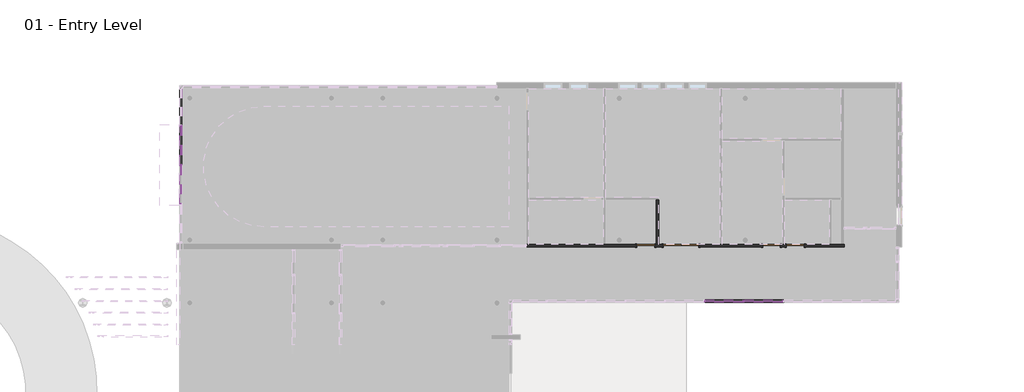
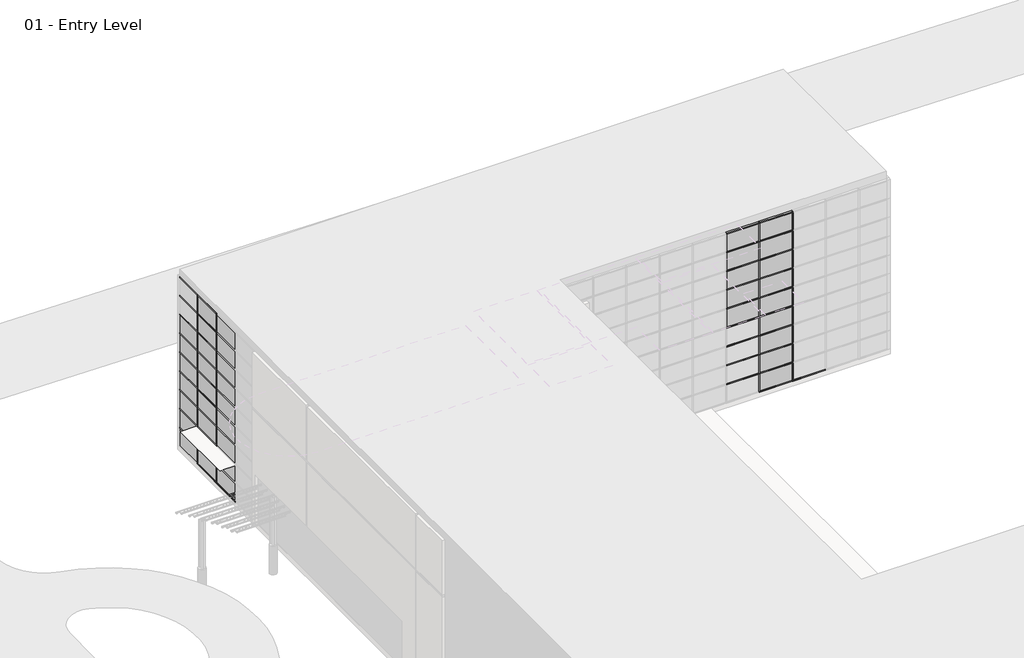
# One storey, part 27 of 34: 76 members, 39 plates, 4 doors, 2 walls.
"""IFC4 building model written with IfcOpenShell, lengths in millimetres."""

from ifc_helpers import new_model, si_unit, origin, origin_with_axes, place, context, project, spatial, polyline, outline, extrude, faceted_brep, transform, mapped, element, save
from components import door_aad9fa6e, door_a1797ceb, door_a3eb833a, member_2b49869a, member_391b434c, member_9e90ae50, member_bdc0ab2a, member_d73967ec, system_panel_glazed_1b9d6098, system_panel_glazed_70da479d, system_panel_glazed_16bdbcd7, system_panel_glazed_acb8865d, system_panel_solid_b376696c, system_panel_solid_77e8b053, system_panel_solid_f3cfc6ec

model = new_model("IFC4")

# Units and contexts
model_context = context("Model", 3, world=origin())
ifc_project = project(units=[si_unit("LENGTHUNIT", "METRE", prefix="MILLI")], contexts=[model_context])

# Site, building, storey
site = spatial("IfcSite", under=ifc_project)
building = spatial("IfcBuilding", under=site)
storey = spatial("IfcBuildingStorey", under=building, Name="01 - Entry Level", Elevation=0.0)

# Doors
placement = place(None, origin())
door_shape = door_aad9fa6e(model_context)
element("IfcDoor", 1, ObjectType="Double-Flush : 72\" x 84\"", at=placement, inside=storey, context=model_context, shape_type="MappedRepresentation", body=[
    mapped(door_shape, transform((25985.1207476, 45608.8, 0.0), x_axis=(-1.0, 0.0, 0.0), y_axis=(0.0, -1.0, 0.0), z_axis=(0.0, 0.0, 1.0))),
])
door_2_shape = door_a1797ceb(model_context)
element("IfcDoor", 2, ObjectType="Single-Flush : 36\" x 84\"", at=placement, inside=storey, context=model_context, shape_type="MappedRepresentation", body=[
    mapped(door_2_shape, transform((30646.0207476, 45608.8, 0.0), x_axis=(1.0, 0.0, 0.0), y_axis=(0.0, 1.0, 0.0), z_axis=(0.0, 0.0, 1.0))),
])
door_3_shape = door_a3eb833a(model_context)
element("IfcDoor", 3, ObjectType="Single-Flush : 36\" x 84\"", at=placement, inside=storey, context=model_context, shape_type="MappedRepresentation", body=[
    mapped(door_3_shape, transform((31865.2207476, 45608.8, 0.0), x_axis=(-1.0, 0.0, 0.0), y_axis=(0.0, -1.0, 0.0), z_axis=(0.0, 0.0, 1.0))),
])
element("IfcDoor", 4, ObjectType="Single-Flush : 36\" x 84\" 20 Minute Rated", at=placement, inside=storey, context=model_context, shape_type="MappedRepresentation", body=[
    mapped(door_2_shape, transform((24156.3207476, 45608.8, 0.0), x_axis=(1.0, 0.0, 0.0), y_axis=(0.0, 1.0, 0.0), z_axis=(0.0, 0.0, 1.0))),
])

# Members
member_shape = member_2b49869a(model_context)
element("IfcMember", 5, ObjectType="Rectangular Mullion : 2.5\" x 5\" rectangular", at=placement, inside=storey, context=model_context, shape_type="MappedRepresentation", body=[
    mapped(member_shape, transform((29198.2207476, 42751.3, 9753.6), x_axis=(1.0, 0.0, 0.0), y_axis=(0.0, -1.0, 0.0), z_axis=(0.0, 0.0, -1.0))),
])
element("IfcMember", 6, ObjectType="Rectangular Mullion : 2.5\" x 5\" rectangular", at=placement, inside=storey, context=model_context, shape_type="MappedRepresentation", body=[
    mapped(member_shape, transform((31230.2207476, 42751.3, 9753.6), x_axis=(1.0, 0.0, 0.0), y_axis=(0.0, -1.0, 0.0), z_axis=(0.0, 0.0, -1.0))),
])
element("IfcMember", 7, ObjectType="Rectangular Mullion : 2.5\" x 5\" rectangular", at=placement, inside=storey, context=model_context, shape_type="MappedRepresentation", body=[
    mapped(member_shape, transform((178.7207476, 51812.75, 9753.6), x_axis=(0.0, -1.0, 0.0), y_axis=(-1.0, 0.0, 0.0), z_axis=(0.0, 0.0, -1.0))),
])
element("IfcMember", 8, ObjectType="Rectangular Mullion : 2.5\" x 5\" rectangular", at=placement, inside=storey, context=model_context, shape_type="MappedRepresentation", body=[
    mapped(member_shape, transform((178.7207476, 49780.75, 9753.6), x_axis=(0.0, -1.0, 0.0), y_axis=(-1.0, 0.0, 0.0), z_axis=(0.0, 0.0, -1.0))),
])
member_2_shape = member_391b434c(model_context)
element("IfcMember", 9, ObjectType="Rectangular Mullion : 2.5\" x 5\" rectangular", at=placement, inside=storey, context=model_context, shape_type="MappedRepresentation", body=[
    mapped(member_2_shape, transform((29166.4707476, 42751.3, 10972.8), x_axis=(0.0, 0.0, 1.0), y_axis=(0.0, -1.0, 0.0), z_axis=(1.0, 0.0, 0.0))),
])
element("IfcMember", 10, ObjectType="Rectangular Mullion : 2.5\" x 5\" rectangular", at=placement, inside=storey, context=model_context, shape_type="MappedRepresentation", body=[
    mapped(member_2_shape, transform((31198.4707476, 42751.3, 10972.8), x_axis=(0.0, 0.0, 1.0), y_axis=(0.0, -1.0, 0.0), z_axis=(1.0, 0.0, 0.0))),
])
element("IfcMember", 11, ObjectType="Rectangular Mullion : 2.5\" x 5\" rectangular", at=placement, inside=storey, context=model_context, shape_type="MappedRepresentation", body=[
    mapped(member_2_shape, transform((178.7207476, 49812.5, 10972.8), x_axis=(0.0, 0.0, 1.0), y_axis=(-1.0, 0.0, 0.0), z_axis=(0.0, -1.0, 0.0))),
])
element("IfcMember", 12, ObjectType="Rectangular Mullion : 2.5\" x 5\" rectangular", at=placement, inside=storey, context=model_context, shape_type="MappedRepresentation", body=[
    mapped(member_2_shape, transform((29229.9707476, 42751.3, 0.0), x_axis=(0.0, 0.0, -1.0), y_axis=(0.0, -1.0, 0.0), z_axis=(-1.0, 0.0, 0.0))),
])
element("IfcMember", 13, ObjectType="Rectangular Mullion : 2.5\" x 5\" rectangular", at=placement, inside=storey, context=model_context, shape_type="MappedRepresentation", body=[
    mapped(member_2_shape, transform((31261.9707476, 42751.3, 0.0), x_axis=(0.0, 0.0, -1.0), y_axis=(0.0, -1.0, 0.0), z_axis=(-1.0, 0.0, 0.0))),
])
element("IfcMember", 14, ObjectType="Rectangular Mullion : 2.5\" x 5\" rectangular", at=placement, inside=storey, context=model_context, shape_type="MappedRepresentation", body=[
    mapped(member_2_shape, transform((178.7207476, 51781.0, 0.0), x_axis=(0.0, 0.0, -1.0), y_axis=(-1.0, 0.0, 0.0), z_axis=(0.0, 1.0, 0.0))),
])
element("IfcMember", 15, ObjectType="Rectangular Mullion : 2.5\" x 5\" rectangular", at=placement, inside=storey, context=model_context, shape_type="MappedRepresentation", body=[
    mapped(member_2_shape, transform((178.7207476, 49749.0, 0.0), x_axis=(0.0, 0.0, -1.0), y_axis=(-1.0, 0.0, 0.0), z_axis=(0.0, 1.0, 0.0))),
])
member_3_shape = member_9e90ae50(model_context)
element("IfcMember", 16, ObjectType="Rectangular Mullion : 2.5\" x 5\" rectangular", at=placement, inside=storey, context=model_context, shape_type="MappedRepresentation", body=[
    mapped(member_3_shape, transform((29166.4707476, 42751.3, 1219.2), x_axis=(0.0, 0.0, 1.0), y_axis=(0.0, -1.0, 0.0), z_axis=(1.0, 0.0, 0.0))),
])
element("IfcMember", 17, ObjectType="Rectangular Mullion : 2.5\" x 5\" rectangular", at=placement, inside=storey, context=model_context, shape_type="MappedRepresentation", body=[
    mapped(member_3_shape, transform((31198.4707476, 42751.3, 1219.2), x_axis=(0.0, 0.0, 1.0), y_axis=(0.0, -1.0, 0.0), z_axis=(1.0, 0.0, 0.0))),
])
element("IfcMember", 18, ObjectType="Rectangular Mullion : 2.5\" x 5\" rectangular", at=placement, inside=storey, context=model_context, shape_type="MappedRepresentation", body=[
    mapped(member_3_shape, transform((29166.4707476, 42751.3, 2438.4), x_axis=(0.0, 0.0, 1.0), y_axis=(0.0, -1.0, 0.0), z_axis=(1.0, 0.0, 0.0))),
])
element("IfcMember", 19, ObjectType="Rectangular Mullion : 2.5\" x 5\" rectangular", at=placement, inside=storey, context=model_context, shape_type="MappedRepresentation", body=[
    mapped(member_3_shape, transform((31198.4707476, 42751.3, 2438.4), x_axis=(0.0, 0.0, 1.0), y_axis=(0.0, -1.0, 0.0), z_axis=(1.0, 0.0, 0.0))),
])
element("IfcMember", 20, ObjectType="Rectangular Mullion : 2.5\" x 5\" rectangular", at=placement, inside=storey, context=model_context, shape_type="MappedRepresentation", body=[
    mapped(member_3_shape, transform((29166.4707476, 42751.3, 3657.6), x_axis=(0.0, 0.0, 1.0), y_axis=(0.0, -1.0, 0.0), z_axis=(1.0, 0.0, 0.0))),
])
element("IfcMember", 21, ObjectType="Rectangular Mullion : 2.5\" x 5\" rectangular", at=placement, inside=storey, context=model_context, shape_type="MappedRepresentation", body=[
    mapped(member_3_shape, transform((31198.4707476, 42751.3, 3657.6), x_axis=(0.0, 0.0, 1.0), y_axis=(0.0, -1.0, 0.0), z_axis=(1.0, 0.0, 0.0))),
])
element("IfcMember", 22, ObjectType="Rectangular Mullion : 2.5\" x 5\" rectangular", at=placement, inside=storey, context=model_context, shape_type="MappedRepresentation", body=[
    mapped(member_3_shape, transform((29166.4707476, 42751.3, 4876.8), x_axis=(0.0, 0.0, 1.0), y_axis=(0.0, -1.0, 0.0), z_axis=(1.0, 0.0, 0.0))),
])
element("IfcMember", 23, ObjectType="Rectangular Mullion : 2.5\" x 5\" rectangular", at=placement, inside=storey, context=model_context, shape_type="MappedRepresentation", body=[
    mapped(member_3_shape, transform((31198.4707476, 42751.3, 4876.8), x_axis=(0.0, 0.0, 1.0), y_axis=(0.0, -1.0, 0.0), z_axis=(1.0, 0.0, 0.0))),
])
element("IfcMember", 24, ObjectType="Rectangular Mullion : 2.5\" x 5\" rectangular", at=placement, inside=storey, context=model_context, shape_type="MappedRepresentation", body=[
    mapped(member_3_shape, transform((29166.4707476, 42751.3, 6096.0), x_axis=(0.0, 0.0, 1.0), y_axis=(0.0, -1.0, 0.0), z_axis=(1.0, 0.0, 0.0))),
])
element("IfcMember", 25, ObjectType="Rectangular Mullion : 2.5\" x 5\" rectangular", at=placement, inside=storey, context=model_context, shape_type="MappedRepresentation", body=[
    mapped(member_3_shape, transform((31198.4707476, 42751.3, 6096.0), x_axis=(0.0, 0.0, 1.0), y_axis=(0.0, -1.0, 0.0), z_axis=(1.0, 0.0, 0.0))),
])
element("IfcMember", 26, ObjectType="Rectangular Mullion : 2.5\" x 5\" rectangular", at=placement, inside=storey, context=model_context, shape_type="MappedRepresentation", body=[
    mapped(member_3_shape, transform((29166.4707476, 42751.3, 7315.2), x_axis=(0.0, 0.0, 1.0), y_axis=(0.0, -1.0, 0.0), z_axis=(1.0, 0.0, 0.0))),
])
element("IfcMember", 27, ObjectType="Rectangular Mullion : 2.5\" x 5\" rectangular", at=placement, inside=storey, context=model_context, shape_type="MappedRepresentation", body=[
    mapped(member_3_shape, transform((31198.4707476, 42751.3, 7315.2), x_axis=(0.0, 0.0, 1.0), y_axis=(0.0, -1.0, 0.0), z_axis=(1.0, 0.0, 0.0))),
])
element("IfcMember", 28, ObjectType="Rectangular Mullion : 2.5\" x 5\" rectangular", at=placement, inside=storey, context=model_context, shape_type="MappedRepresentation", body=[
    mapped(member_3_shape, transform((29166.4707476, 42751.3, 8534.4), x_axis=(0.0, 0.0, 1.0), y_axis=(0.0, -1.0, 0.0), z_axis=(1.0, 0.0, 0.0))),
])
element("IfcMember", 29, ObjectType="Rectangular Mullion : 2.5\" x 5\" rectangular", at=placement, inside=storey, context=model_context, shape_type="MappedRepresentation", body=[
    mapped(member_3_shape, transform((31198.4707476, 42751.3, 8534.4), x_axis=(0.0, 0.0, 1.0), y_axis=(0.0, -1.0, 0.0), z_axis=(1.0, 0.0, 0.0))),
])
element("IfcMember", 30, ObjectType="Rectangular Mullion : 2.5\" x 5\" rectangular", at=placement, inside=storey, context=model_context, shape_type="MappedRepresentation", body=[
    mapped(member_3_shape, transform((29166.4707476, 42751.3, 9753.6), x_axis=(0.0, 0.0, 1.0), y_axis=(0.0, -1.0, 0.0), z_axis=(1.0, 0.0, 0.0))),
])
element("IfcMember", 31, ObjectType="Rectangular Mullion : 2.5\" x 5\" rectangular", at=placement, inside=storey, context=model_context, shape_type="MappedRepresentation", body=[
    mapped(member_3_shape, transform((31198.4707476, 42751.3, 9753.6), x_axis=(0.0, 0.0, 1.0), y_axis=(0.0, -1.0, 0.0), z_axis=(1.0, 0.0, 0.0))),
])
element("IfcMember", 32, ObjectType="Rectangular Mullion : 2.5\" x 5\" rectangular", at=placement, inside=storey, context=model_context, shape_type="MappedRepresentation", body=[
    mapped(member_3_shape, transform((178.7207476, 49812.5, 1219.2), x_axis=(0.0, 0.0, 1.0), y_axis=(-1.0, 0.0, 0.0), z_axis=(0.0, -1.0, 0.0))),
])
element("IfcMember", 33, ObjectType="Rectangular Mullion : 2.5\" x 5\" rectangular", at=placement, inside=storey, context=model_context, shape_type="MappedRepresentation", body=[
    mapped(member_3_shape, transform((178.7207476, 49812.5, 2438.4), x_axis=(0.0, 0.0, 1.0), y_axis=(-1.0, 0.0, 0.0), z_axis=(0.0, -1.0, 0.0))),
])
element("IfcMember", 34, ObjectType="Rectangular Mullion : 2.5\" x 5\" rectangular", at=placement, inside=storey, context=model_context, shape_type="MappedRepresentation", body=[
    mapped(member_3_shape, transform((178.7207476, 49812.5, 3657.6), x_axis=(0.0, 0.0, 1.0), y_axis=(-1.0, 0.0, 0.0), z_axis=(0.0, -1.0, 0.0))),
])
element("IfcMember", 35, ObjectType="Rectangular Mullion : 2.5\" x 5\" rectangular", at=placement, inside=storey, context=model_context, shape_type="MappedRepresentation", body=[
    mapped(member_3_shape, transform((178.7207476, 49812.5, 4876.8), x_axis=(0.0, 0.0, 1.0), y_axis=(-1.0, 0.0, 0.0), z_axis=(0.0, -1.0, 0.0))),
])
element("IfcMember", 36, ObjectType="Rectangular Mullion : 2.5\" x 5\" rectangular", at=placement, inside=storey, context=model_context, shape_type="MappedRepresentation", body=[
    mapped(member_3_shape, transform((178.7207476, 49812.5, 6096.0), x_axis=(0.0, 0.0, 1.0), y_axis=(-1.0, 0.0, 0.0), z_axis=(0.0, -1.0, 0.0))),
])
element("IfcMember", 37, ObjectType="Rectangular Mullion : 2.5\" x 5\" rectangular", at=placement, inside=storey, context=model_context, shape_type="MappedRepresentation", body=[
    mapped(member_3_shape, transform((178.7207476, 49812.5, 7315.2), x_axis=(0.0, 0.0, 1.0), y_axis=(-1.0, 0.0, 0.0), z_axis=(0.0, -1.0, 0.0))),
])
element("IfcMember", 38, ObjectType="Rectangular Mullion : 2.5\" x 5\" rectangular", at=placement, inside=storey, context=model_context, shape_type="MappedRepresentation", body=[
    mapped(member_3_shape, transform((178.7207476, 49812.5, 8534.4), x_axis=(0.0, 0.0, 1.0), y_axis=(-1.0, 0.0, 0.0), z_axis=(0.0, -1.0, 0.0))),
])
element("IfcMember", 39, ObjectType="Rectangular Mullion : 2.5\" x 5\" rectangular", at=placement, inside=storey, context=model_context, shape_type="MappedRepresentation", body=[
    mapped(member_3_shape, transform((178.7207476, 49812.5, 9753.6), x_axis=(0.0, 0.0, 1.0), y_axis=(-1.0, 0.0, 0.0), z_axis=(0.0, -1.0, 0.0))),
])
element("IfcMember", 40, ObjectType="Rectangular Mullion : 2.5\" x 5\" rectangular", at=placement, inside=storey, context=model_context, shape_type="MappedRepresentation", body=[
    mapped(member_shape, transform((29198.2207476, 42751.3, 0.0), x_axis=(1.0, 0.0, 0.0), y_axis=(0.0, -1.0, 0.0), z_axis=(0.0, 0.0, -1.0))),
])
element("IfcMember", 41, ObjectType="Rectangular Mullion : 2.5\" x 5\" rectangular", at=placement, inside=storey, context=model_context, shape_type="MappedRepresentation", body=[
    mapped(member_shape, transform((31230.2207476, 42751.3, 0.0), x_axis=(1.0, 0.0, 0.0), y_axis=(0.0, -1.0, 0.0), z_axis=(0.0, 0.0, -1.0))),
])
element("IfcMember", 42, ObjectType="Rectangular Mullion : 2.5\" x 5\" rectangular", at=placement, inside=storey, context=model_context, shape_type="MappedRepresentation", body=[
    mapped(member_shape, transform((178.7207476, 51812.75, 0.0), x_axis=(0.0, -1.0, 0.0), y_axis=(-1.0, 0.0, 0.0), z_axis=(0.0, 0.0, -1.0))),
])
element("IfcMember", 43, ObjectType="Rectangular Mullion : 2.5\" x 5\" rectangular", at=placement, inside=storey, context=model_context, shape_type="MappedRepresentation", body=[
    mapped(member_shape, transform((178.7207476, 49780.75, 0.0), x_axis=(0.0, -1.0, 0.0), y_axis=(-1.0, 0.0, 0.0), z_axis=(0.0, 0.0, -1.0))),
])
element("IfcMember", 44, ObjectType="Rectangular Mullion : 2.5\" x 5\" rectangular", at=placement, inside=storey, context=model_context, shape_type="MappedRepresentation", body=[
    mapped(member_shape, transform((29198.2207476, 42751.3, 1219.2), x_axis=(1.0, 0.0, 0.0), y_axis=(0.0, -1.0, 0.0), z_axis=(0.0, 0.0, -1.0))),
])
element("IfcMember", 45, ObjectType="Rectangular Mullion : 2.5\" x 5\" rectangular", at=placement, inside=storey, context=model_context, shape_type="MappedRepresentation", body=[
    mapped(member_shape, transform((31230.2207476, 42751.3, 1219.2), x_axis=(1.0, 0.0, 0.0), y_axis=(0.0, -1.0, 0.0), z_axis=(0.0, 0.0, -1.0))),
])
element("IfcMember", 46, ObjectType="Rectangular Mullion : 2.5\" x 5\" rectangular", at=placement, inside=storey, context=model_context, shape_type="MappedRepresentation", body=[
    mapped(member_shape, transform((29198.2207476, 42751.3, 2438.4), x_axis=(1.0, 0.0, 0.0), y_axis=(0.0, -1.0, 0.0), z_axis=(0.0, 0.0, -1.0))),
])
element("IfcMember", 47, ObjectType="Rectangular Mullion : 2.5\" x 5\" rectangular", at=placement, inside=storey, context=model_context, shape_type="MappedRepresentation", body=[
    mapped(member_shape, transform((31230.2207476, 42751.3, 2438.4), x_axis=(1.0, 0.0, 0.0), y_axis=(0.0, -1.0, 0.0), z_axis=(0.0, 0.0, -1.0))),
])
element("IfcMember", 48, ObjectType="Rectangular Mullion : 2.5\" x 5\" rectangular", at=placement, inside=storey, context=model_context, shape_type="MappedRepresentation", body=[
    mapped(member_shape, transform((29198.2207476, 42751.3, 3657.6), x_axis=(1.0, 0.0, 0.0), y_axis=(0.0, -1.0, 0.0), z_axis=(0.0, 0.0, -1.0))),
])
element("IfcMember", 49, ObjectType="Rectangular Mullion : 2.5\" x 5\" rectangular", at=placement, inside=storey, context=model_context, shape_type="MappedRepresentation", body=[
    mapped(member_shape, transform((31230.2207476, 42751.3, 3657.6), x_axis=(1.0, 0.0, 0.0), y_axis=(0.0, -1.0, 0.0), z_axis=(0.0, 0.0, -1.0))),
])
element("IfcMember", 50, ObjectType="Rectangular Mullion : 2.5\" x 5\" rectangular", at=placement, inside=storey, context=model_context, shape_type="MappedRepresentation", body=[
    mapped(member_shape, transform((29198.2207476, 42751.3, 4876.8), x_axis=(1.0, 0.0, 0.0), y_axis=(0.0, -1.0, 0.0), z_axis=(0.0, 0.0, -1.0))),
])
element("IfcMember", 51, ObjectType="Rectangular Mullion : 2.5\" x 5\" rectangular", at=placement, inside=storey, context=model_context, shape_type="MappedRepresentation", body=[
    mapped(member_shape, transform((31230.2207476, 42751.3, 4876.8), x_axis=(1.0, 0.0, 0.0), y_axis=(0.0, -1.0, 0.0), z_axis=(0.0, 0.0, -1.0))),
])
element("IfcMember", 52, ObjectType="Rectangular Mullion : 2.5\" x 5\" rectangular", at=placement, inside=storey, context=model_context, shape_type="MappedRepresentation", body=[
    mapped(member_shape, transform((29198.2207476, 42751.3, 6096.0), x_axis=(1.0, 0.0, 0.0), y_axis=(0.0, -1.0, 0.0), z_axis=(0.0, 0.0, -1.0))),
])
element("IfcMember", 53, ObjectType="Rectangular Mullion : 2.5\" x 5\" rectangular", at=placement, inside=storey, context=model_context, shape_type="MappedRepresentation", body=[
    mapped(member_shape, transform((31230.2207476, 42751.3, 6096.0), x_axis=(1.0, 0.0, 0.0), y_axis=(0.0, -1.0, 0.0), z_axis=(0.0, 0.0, -1.0))),
])
element("IfcMember", 54, ObjectType="Rectangular Mullion : 2.5\" x 5\" rectangular", at=placement, inside=storey, context=model_context, shape_type="MappedRepresentation", body=[
    mapped(member_shape, transform((29198.2207476, 42751.3, 7315.2), x_axis=(1.0, 0.0, 0.0), y_axis=(0.0, -1.0, 0.0), z_axis=(0.0, 0.0, -1.0))),
])
element("IfcMember", 55, ObjectType="Rectangular Mullion : 2.5\" x 5\" rectangular", at=placement, inside=storey, context=model_context, shape_type="MappedRepresentation", body=[
    mapped(member_shape, transform((31230.2207476, 42751.3, 7315.2), x_axis=(1.0, 0.0, 0.0), y_axis=(0.0, -1.0, 0.0), z_axis=(0.0, 0.0, -1.0))),
])
element("IfcMember", 56, ObjectType="Rectangular Mullion : 2.5\" x 5\" rectangular", at=placement, inside=storey, context=model_context, shape_type="MappedRepresentation", body=[
    mapped(member_shape, transform((29198.2207476, 42751.3, 8534.4), x_axis=(1.0, 0.0, 0.0), y_axis=(0.0, -1.0, 0.0), z_axis=(0.0, 0.0, -1.0))),
])
element("IfcMember", 57, ObjectType="Rectangular Mullion : 2.5\" x 5\" rectangular", at=placement, inside=storey, context=model_context, shape_type="MappedRepresentation", body=[
    mapped(member_shape, transform((31230.2207476, 42751.3, 8534.4), x_axis=(1.0, 0.0, 0.0), y_axis=(0.0, -1.0, 0.0), z_axis=(0.0, 0.0, -1.0))),
])
element("IfcMember", 58, ObjectType="Rectangular Mullion : 2.5\" x 5\" rectangular", at=placement, inside=storey, context=model_context, shape_type="MappedRepresentation", body=[
    mapped(member_shape, transform((178.7207476, 51812.75, 1219.2), x_axis=(0.0, -1.0, 0.0), y_axis=(-1.0, 0.0, 0.0), z_axis=(0.0, 0.0, -1.0))),
])
element("IfcMember", 59, ObjectType="Rectangular Mullion : 2.5\" x 5\" rectangular", at=placement, inside=storey, context=model_context, shape_type="MappedRepresentation", body=[
    mapped(member_shape, transform((178.7207476, 49780.75, 1219.2), x_axis=(0.0, -1.0, 0.0), y_axis=(-1.0, 0.0, 0.0), z_axis=(0.0, 0.0, -1.0))),
])
element("IfcMember", 60, ObjectType="Rectangular Mullion : 2.5\" x 5\" rectangular", at=placement, inside=storey, context=model_context, shape_type="MappedRepresentation", body=[
    mapped(member_shape, transform((178.7207476, 51812.75, 2438.4), x_axis=(0.0, -1.0, 0.0), y_axis=(-1.0, 0.0, 0.0), z_axis=(0.0, 0.0, -1.0))),
])
element("IfcMember", 61, ObjectType="Rectangular Mullion : 2.5\" x 5\" rectangular", at=placement, inside=storey, context=model_context, shape_type="MappedRepresentation", body=[
    mapped(member_shape, transform((178.7207476, 49780.75, 2438.4), x_axis=(0.0, -1.0, 0.0), y_axis=(-1.0, 0.0, 0.0), z_axis=(0.0, 0.0, -1.0))),
])
element("IfcMember", 62, ObjectType="Rectangular Mullion : 2.5\" x 5\" rectangular", at=placement, inside=storey, context=model_context, shape_type="MappedRepresentation", body=[
    mapped(member_shape, transform((178.7207476, 51812.75, 3657.6), x_axis=(0.0, -1.0, 0.0), y_axis=(-1.0, 0.0, 0.0), z_axis=(0.0, 0.0, -1.0))),
])
element("IfcMember", 63, ObjectType="Rectangular Mullion : 2.5\" x 5\" rectangular", at=placement, inside=storey, context=model_context, shape_type="MappedRepresentation", body=[
    mapped(member_shape, transform((178.7207476, 49780.75, 3657.6), x_axis=(0.0, -1.0, 0.0), y_axis=(-1.0, 0.0, 0.0), z_axis=(0.0, 0.0, -1.0))),
])
element("IfcMember", 64, ObjectType="Rectangular Mullion : 2.5\" x 5\" rectangular", at=placement, inside=storey, context=model_context, shape_type="MappedRepresentation", body=[
    mapped(member_shape, transform((178.7207476, 51812.75, 4876.8), x_axis=(0.0, -1.0, 0.0), y_axis=(-1.0, 0.0, 0.0), z_axis=(0.0, 0.0, -1.0))),
])
element("IfcMember", 65, ObjectType="Rectangular Mullion : 2.5\" x 5\" rectangular", at=placement, inside=storey, context=model_context, shape_type="MappedRepresentation", body=[
    mapped(member_shape, transform((178.7207476, 49780.75, 4876.8), x_axis=(0.0, -1.0, 0.0), y_axis=(-1.0, 0.0, 0.0), z_axis=(0.0, 0.0, -1.0))),
])
element("IfcMember", 66, ObjectType="Rectangular Mullion : 2.5\" x 5\" rectangular", at=placement, inside=storey, context=model_context, shape_type="MappedRepresentation", body=[
    mapped(member_shape, transform((178.7207476, 51812.75, 6096.0), x_axis=(0.0, -1.0, 0.0), y_axis=(-1.0, 0.0, 0.0), z_axis=(0.0, 0.0, -1.0))),
])
element("IfcMember", 67, ObjectType="Rectangular Mullion : 2.5\" x 5\" rectangular", at=placement, inside=storey, context=model_context, shape_type="MappedRepresentation", body=[
    mapped(member_shape, transform((178.7207476, 49780.75, 6096.0), x_axis=(0.0, -1.0, 0.0), y_axis=(-1.0, 0.0, 0.0), z_axis=(0.0, 0.0, -1.0))),
])
element("IfcMember", 68, ObjectType="Rectangular Mullion : 2.5\" x 5\" rectangular", at=placement, inside=storey, context=model_context, shape_type="MappedRepresentation", body=[
    mapped(member_shape, transform((178.7207476, 51812.75, 7315.2), x_axis=(0.0, -1.0, 0.0), y_axis=(-1.0, 0.0, 0.0), z_axis=(0.0, 0.0, -1.0))),
])
element("IfcMember", 69, ObjectType="Rectangular Mullion : 2.5\" x 5\" rectangular", at=placement, inside=storey, context=model_context, shape_type="MappedRepresentation", body=[
    mapped(member_shape, transform((178.7207476, 49780.75, 7315.2), x_axis=(0.0, -1.0, 0.0), y_axis=(-1.0, 0.0, 0.0), z_axis=(0.0, 0.0, -1.0))),
])
element("IfcMember", 70, ObjectType="Rectangular Mullion : 2.5\" x 5\" rectangular", at=placement, inside=storey, context=model_context, shape_type="MappedRepresentation", body=[
    mapped(member_shape, transform((178.7207476, 51812.75, 8534.4), x_axis=(0.0, -1.0, 0.0), y_axis=(-1.0, 0.0, 0.0), z_axis=(0.0, 0.0, -1.0))),
])
element("IfcMember", 71, ObjectType="Rectangular Mullion : 2.5\" x 5\" rectangular", at=placement, inside=storey, context=model_context, shape_type="MappedRepresentation", body=[
    mapped(member_shape, transform((178.7207476, 49780.75, 8534.4), x_axis=(0.0, -1.0, 0.0), y_axis=(-1.0, 0.0, 0.0), z_axis=(0.0, 0.0, -1.0))),
])
member_4_shape = member_bdc0ab2a(model_context)
element("IfcMember", 72, ObjectType="Rectangular Mullion : 2.5\" x 5\" rectangular", at=placement, inside=storey, context=model_context, shape_type="MappedRepresentation", body=[
    mapped(member_4_shape, transform((178.7207476, 51844.5, 10972.8), x_axis=(0.0, 0.0, 1.0), y_axis=(-1.0, 0.0, 0.0), z_axis=(0.0, -1.0, 0.0))),
])
member_5_shape = member_d73967ec(model_context)
element("IfcMember", 73, ObjectType="Rectangular Mullion : 2.5\" x 5\" rectangular", at=placement, inside=storey, context=model_context, shape_type="MappedRepresentation", body=[
    mapped(member_5_shape, transform((178.7207476, 51844.5, 1219.2), x_axis=(0.0, 0.0, 1.0), y_axis=(-1.0, 0.0, 0.0), z_axis=(0.0, -1.0, 0.0))),
])
element("IfcMember", 74, ObjectType="Rectangular Mullion : 2.5\" x 5\" rectangular", at=placement, inside=storey, context=model_context, shape_type="MappedRepresentation", body=[
    mapped(member_5_shape, transform((178.7207476, 51844.5, 2438.4), x_axis=(0.0, 0.0, 1.0), y_axis=(-1.0, 0.0, 0.0), z_axis=(0.0, -1.0, 0.0))),
])
element("IfcMember", 75, ObjectType="Rectangular Mullion : 2.5\" x 5\" rectangular", at=placement, inside=storey, context=model_context, shape_type="MappedRepresentation", body=[
    mapped(member_5_shape, transform((178.7207476, 51844.5, 3657.6), x_axis=(0.0, 0.0, 1.0), y_axis=(-1.0, 0.0, 0.0), z_axis=(0.0, -1.0, 0.0))),
])
element("IfcMember", 76, ObjectType="Rectangular Mullion : 2.5\" x 5\" rectangular", at=placement, inside=storey, context=model_context, shape_type="MappedRepresentation", body=[
    mapped(member_5_shape, transform((178.7207476, 51844.5, 4876.8), x_axis=(0.0, 0.0, 1.0), y_axis=(-1.0, 0.0, 0.0), z_axis=(0.0, -1.0, 0.0))),
])
element("IfcMember", 77, ObjectType="Rectangular Mullion : 2.5\" x 5\" rectangular", at=placement, inside=storey, context=model_context, shape_type="MappedRepresentation", body=[
    mapped(member_5_shape, transform((178.7207476, 51844.5, 6096.0), x_axis=(0.0, 0.0, 1.0), y_axis=(-1.0, 0.0, 0.0), z_axis=(0.0, -1.0, 0.0))),
])
element("IfcMember", 78, ObjectType="Rectangular Mullion : 2.5\" x 5\" rectangular", at=placement, inside=storey, context=model_context, shape_type="MappedRepresentation", body=[
    mapped(member_5_shape, transform((178.7207476, 51844.5, 7315.2), x_axis=(0.0, 0.0, 1.0), y_axis=(-1.0, 0.0, 0.0), z_axis=(0.0, -1.0, 0.0))),
])
element("IfcMember", 79, ObjectType="Rectangular Mullion : 2.5\" x 5\" rectangular", at=placement, inside=storey, context=model_context, shape_type="MappedRepresentation", body=[
    mapped(member_5_shape, transform((178.7207476, 51844.5, 8534.4), x_axis=(0.0, 0.0, 1.0), y_axis=(-1.0, 0.0, 0.0), z_axis=(0.0, -1.0, 0.0))),
])
element("IfcMember", 80, ObjectType="Rectangular Mullion : 2.5\" x 5\" rectangular", at=placement, inside=storey, context=model_context, shape_type="MappedRepresentation", body=[
    mapped(member_5_shape, transform((178.7207476, 51844.5, 9753.6), x_axis=(0.0, 0.0, 1.0), y_axis=(-1.0, 0.0, 0.0), z_axis=(0.0, -1.0, 0.0))),
])

# Plates
system_panel_glazed_shape = system_panel_glazed_1b9d6098(model_context)
element("IfcPlate", 81, ObjectType="System Panel : Glazed", at=placement, inside=storey, context=model_context, shape_type="MappedRepresentation", body=[
    mapped(system_panel_glazed_shape, transform((30214.2207476, 42751.3, 63.5), x_axis=(1.0, 0.0, 0.0), y_axis=(0.0, 1.0, 0.0), z_axis=(0.0, 0.0, 1.0))),
])
element("IfcPlate", 82, ObjectType="System Panel : Glazed", at=placement, inside=storey, context=model_context, shape_type="MappedRepresentation", body=[
    mapped(system_panel_glazed_shape, transform((28182.2207476, 42751.3, 9785.35), x_axis=(1.0, 0.0, 0.0), y_axis=(0.0, 1.0, 0.0), z_axis=(0.0, 0.0, 1.0))),
])
element("IfcPlate", 83, ObjectType="System Panel : Glazed", at=placement, inside=storey, context=model_context, shape_type="MappedRepresentation", body=[
    mapped(system_panel_glazed_shape, transform((30214.2207476, 42751.3, 9785.35), x_axis=(1.0, 0.0, 0.0), y_axis=(0.0, 1.0, 0.0), z_axis=(0.0, 0.0, 1.0))),
])
element("IfcPlate", 84, ObjectType="System Panel : Glazed", at=placement, inside=storey, context=model_context, shape_type="MappedRepresentation", body=[
    mapped(system_panel_glazed_shape, transform((178.7207476, 50796.75, 63.5), x_axis=(0.0, -1.0, 0.0), y_axis=(1.0, 0.0, 0.0), z_axis=(0.0, 0.0, 1.0))),
])
element("IfcPlate", 85, ObjectType="System Panel : Glazed", at=placement, inside=storey, context=model_context, shape_type="MappedRepresentation", body=[
    mapped(system_panel_glazed_shape, transform((178.7207476, 48764.75, 63.5), x_axis=(0.0, -1.0, 0.0), y_axis=(1.0, 0.0, 0.0), z_axis=(0.0, 0.0, 1.0))),
])
system_panel_glazed_2_shape = system_panel_glazed_70da479d(model_context)
element("IfcPlate", 86, ObjectType="System Panel : Glazed", at=placement, inside=storey, context=model_context, shape_type="MappedRepresentation", body=[
    mapped(system_panel_glazed_2_shape, transform((30214.2207476, 42751.3, 1250.95), x_axis=(1.0, 0.0, 0.0), y_axis=(0.0, 1.0, 0.0), z_axis=(0.0, 0.0, 1.0))),
])
element("IfcPlate", 87, ObjectType="System Panel : Glazed", at=placement, inside=storey, context=model_context, shape_type="MappedRepresentation", body=[
    mapped(system_panel_glazed_2_shape, transform((30214.2207476, 42751.3, 2470.15), x_axis=(1.0, 0.0, 0.0), y_axis=(0.0, 1.0, 0.0), z_axis=(0.0, 0.0, 1.0))),
])
element("IfcPlate", 88, ObjectType="System Panel : Glazed", at=placement, inside=storey, context=model_context, shape_type="MappedRepresentation", body=[
    mapped(system_panel_glazed_2_shape, transform((30214.2207476, 42751.3, 3689.35), x_axis=(1.0, 0.0, 0.0), y_axis=(0.0, 1.0, 0.0), z_axis=(0.0, 0.0, 1.0))),
])
element("IfcPlate", 89, ObjectType="System Panel : Glazed", at=placement, inside=storey, context=model_context, shape_type="MappedRepresentation", body=[
    mapped(system_panel_glazed_2_shape, transform((28182.2207476, 42751.3, 4908.55), x_axis=(1.0, 0.0, 0.0), y_axis=(0.0, 1.0, 0.0), z_axis=(0.0, 0.0, 1.0))),
])
element("IfcPlate", 90, ObjectType="System Panel : Glazed", at=placement, inside=storey, context=model_context, shape_type="MappedRepresentation", body=[
    mapped(system_panel_glazed_2_shape, transform((30214.2207476, 42751.3, 4908.55), x_axis=(1.0, 0.0, 0.0), y_axis=(0.0, 1.0, 0.0), z_axis=(0.0, 0.0, 1.0))),
])
element("IfcPlate", 91, ObjectType="System Panel : Glazed", at=placement, inside=storey, context=model_context, shape_type="MappedRepresentation", body=[
    mapped(system_panel_glazed_2_shape, transform((28182.2207476, 42751.3, 6127.75), x_axis=(1.0, 0.0, 0.0), y_axis=(0.0, 1.0, 0.0), z_axis=(0.0, 0.0, 1.0))),
])
element("IfcPlate", 92, ObjectType="System Panel : Glazed", at=placement, inside=storey, context=model_context, shape_type="MappedRepresentation", body=[
    mapped(system_panel_glazed_2_shape, transform((30214.2207476, 42751.3, 6127.75), x_axis=(1.0, 0.0, 0.0), y_axis=(0.0, 1.0, 0.0), z_axis=(0.0, 0.0, 1.0))),
])
element("IfcPlate", 93, ObjectType="System Panel : Glazed", at=placement, inside=storey, context=model_context, shape_type="MappedRepresentation", body=[
    mapped(system_panel_glazed_2_shape, transform((28182.2207476, 42751.3, 7346.95), x_axis=(1.0, 0.0, 0.0), y_axis=(0.0, 1.0, 0.0), z_axis=(0.0, 0.0, 1.0))),
])
element("IfcPlate", 94, ObjectType="System Panel : Glazed", at=placement, inside=storey, context=model_context, shape_type="MappedRepresentation", body=[
    mapped(system_panel_glazed_2_shape, transform((30214.2207476, 42751.3, 7346.95), x_axis=(1.0, 0.0, 0.0), y_axis=(0.0, 1.0, 0.0), z_axis=(0.0, 0.0, 1.0))),
])
element("IfcPlate", 95, ObjectType="System Panel : Glazed", at=placement, inside=storey, context=model_context, shape_type="MappedRepresentation", body=[
    mapped(system_panel_glazed_2_shape, transform((28182.2207476, 42751.3, 8566.15), x_axis=(1.0, 0.0, 0.0), y_axis=(0.0, 1.0, 0.0), z_axis=(0.0, 0.0, 1.0))),
])
element("IfcPlate", 96, ObjectType="System Panel : Glazed", at=placement, inside=storey, context=model_context, shape_type="MappedRepresentation", body=[
    mapped(system_panel_glazed_2_shape, transform((30214.2207476, 42751.3, 8566.15), x_axis=(1.0, 0.0, 0.0), y_axis=(0.0, 1.0, 0.0), z_axis=(0.0, 0.0, 1.0))),
])
element("IfcPlate", 97, ObjectType="System Panel : Glazed", at=placement, inside=storey, context=model_context, shape_type="MappedRepresentation", body=[
    mapped(system_panel_glazed_2_shape, transform((178.7207476, 50796.75, 1250.95), x_axis=(0.0, -1.0, 0.0), y_axis=(1.0, 0.0, 0.0), z_axis=(0.0, 0.0, 1.0))),
])
element("IfcPlate", 98, ObjectType="System Panel : Glazed", at=placement, inside=storey, context=model_context, shape_type="MappedRepresentation", body=[
    mapped(system_panel_glazed_2_shape, transform((178.7207476, 48764.75, 1250.95), x_axis=(0.0, -1.0, 0.0), y_axis=(1.0, 0.0, 0.0), z_axis=(0.0, 0.0, 1.0))),
])
element("IfcPlate", 99, ObjectType="System Panel : Glazed", at=placement, inside=storey, context=model_context, shape_type="MappedRepresentation", body=[
    mapped(system_panel_glazed_2_shape, transform((178.7207476, 50796.75, 3689.35), x_axis=(0.0, -1.0, 0.0), y_axis=(1.0, 0.0, 0.0), z_axis=(0.0, 0.0, 1.0))),
])
element("IfcPlate", 100, ObjectType="System Panel : Glazed", at=placement, inside=storey, context=model_context, shape_type="MappedRepresentation", body=[
    mapped(system_panel_glazed_2_shape, transform((178.7207476, 48764.75, 3689.35), x_axis=(0.0, -1.0, 0.0), y_axis=(1.0, 0.0, 0.0), z_axis=(0.0, 0.0, 1.0))),
])
element("IfcPlate", 101, ObjectType="System Panel : Glazed", at=placement, inside=storey, context=model_context, shape_type="MappedRepresentation", body=[
    mapped(system_panel_glazed_2_shape, transform((178.7207476, 50796.75, 4908.55), x_axis=(0.0, -1.0, 0.0), y_axis=(1.0, 0.0, 0.0), z_axis=(0.0, 0.0, 1.0))),
])
element("IfcPlate", 102, ObjectType="System Panel : Glazed", at=placement, inside=storey, context=model_context, shape_type="MappedRepresentation", body=[
    mapped(system_panel_glazed_2_shape, transform((178.7207476, 48764.75, 4908.55), x_axis=(0.0, -1.0, 0.0), y_axis=(1.0, 0.0, 0.0), z_axis=(0.0, 0.0, 1.0))),
])
element("IfcPlate", 103, ObjectType="System Panel : Glazed", at=placement, inside=storey, context=model_context, shape_type="MappedRepresentation", body=[
    mapped(system_panel_glazed_2_shape, transform((178.7207476, 50796.75, 7346.95), x_axis=(0.0, -1.0, 0.0), y_axis=(1.0, 0.0, 0.0), z_axis=(0.0, 0.0, 1.0))),
])
element("IfcPlate", 104, ObjectType="System Panel : Glazed", at=placement, inside=storey, context=model_context, shape_type="MappedRepresentation", body=[
    mapped(system_panel_glazed_2_shape, transform((178.7207476, 48764.75, 7346.95), x_axis=(0.0, -1.0, 0.0), y_axis=(1.0, 0.0, 0.0), z_axis=(0.0, 0.0, 1.0))),
])
element("IfcPlate", 105, ObjectType="System Panel : Glazed", at=placement, inside=storey, context=model_context, shape_type="MappedRepresentation", body=[
    mapped(system_panel_glazed_2_shape, transform((178.7207476, 50796.75, 8566.15), x_axis=(0.0, -1.0, 0.0), y_axis=(1.0, 0.0, 0.0), z_axis=(0.0, 0.0, 1.0))),
])
element("IfcPlate", 106, ObjectType="System Panel : Glazed", at=placement, inside=storey, context=model_context, shape_type="MappedRepresentation", body=[
    mapped(system_panel_glazed_2_shape, transform((178.7207476, 48764.75, 8566.15), x_axis=(0.0, -1.0, 0.0), y_axis=(1.0, 0.0, 0.0), z_axis=(0.0, 0.0, 1.0))),
])
system_panel_glazed_3_shape = system_panel_glazed_16bdbcd7(model_context)
element("IfcPlate", 107, ObjectType="System Panel : Glazed", at=placement, inside=storey, context=model_context, shape_type="MappedRepresentation", body=[
    mapped(system_panel_glazed_3_shape, transform((178.7207476, 52771.6, 63.5), x_axis=(0.0, -1.0, 0.0), y_axis=(1.0, 0.0, 0.0), z_axis=(0.0, 0.0, 1.0))),
])
system_panel_glazed_4_shape = system_panel_glazed_acb8865d(model_context)
element("IfcPlate", 108, ObjectType="System Panel : Glazed", at=placement, inside=storey, context=model_context, shape_type="MappedRepresentation", body=[
    mapped(system_panel_glazed_4_shape, transform((178.7207476, 52771.6, 1250.95), x_axis=(0.0, -1.0, 0.0), y_axis=(1.0, 0.0, 0.0), z_axis=(0.0, 0.0, 1.0))),
])
element("IfcPlate", 109, ObjectType="System Panel : Glazed", at=placement, inside=storey, context=model_context, shape_type="MappedRepresentation", body=[
    mapped(system_panel_glazed_4_shape, transform((178.7207476, 52771.6, 3689.35), x_axis=(0.0, -1.0, 0.0), y_axis=(1.0, 0.0, 0.0), z_axis=(0.0, 0.0, 1.0))),
])
element("IfcPlate", 110, ObjectType="System Panel : Glazed", at=placement, inside=storey, context=model_context, shape_type="MappedRepresentation", body=[
    mapped(system_panel_glazed_4_shape, transform((178.7207476, 52771.6, 4908.55), x_axis=(0.0, -1.0, 0.0), y_axis=(1.0, 0.0, 0.0), z_axis=(0.0, 0.0, 1.0))),
])
element("IfcPlate", 111, ObjectType="System Panel : Glazed", at=placement, inside=storey, context=model_context, shape_type="MappedRepresentation", body=[
    mapped(system_panel_glazed_4_shape, transform((178.7207476, 52771.6, 7346.95), x_axis=(0.0, -1.0, 0.0), y_axis=(1.0, 0.0, 0.0), z_axis=(0.0, 0.0, 1.0))),
])
system_panel_solid_shape = system_panel_solid_b376696c(model_context)
element("IfcPlate", 112, ObjectType="System Panel : Solid", at=placement, inside=storey, context=model_context, shape_type="MappedRepresentation", body=[
    mapped(system_panel_solid_shape, transform((178.7207476, 50796.75, 9785.35), x_axis=(0.0, -1.0, 0.0), y_axis=(1.0, 0.0, 0.0), z_axis=(0.0, 0.0, 1.0))),
])
element("IfcPlate", 113, ObjectType="System Panel : Solid", at=placement, inside=storey, context=model_context, shape_type="MappedRepresentation", body=[
    mapped(system_panel_solid_shape, transform((178.7207476, 48764.75, 9785.35), x_axis=(0.0, -1.0, 0.0), y_axis=(1.0, 0.0, 0.0), z_axis=(0.0, 0.0, 1.0))),
])
system_panel_solid_2_shape = system_panel_solid_77e8b053(model_context)
element("IfcPlate", 114, ObjectType="System Panel : Solid", at=placement, inside=storey, context=model_context, shape_type="MappedRepresentation", body=[
    mapped(system_panel_solid_2_shape, transform((178.7207476, 50796.75, 2470.15), x_axis=(0.0, -1.0, 0.0), y_axis=(1.0, 0.0, 0.0), z_axis=(0.0, 0.0, 1.0))),
])
element("IfcPlate", 115, ObjectType="System Panel : Solid", at=placement, inside=storey, context=model_context, shape_type="MappedRepresentation", body=[
    mapped(system_panel_solid_2_shape, transform((178.7207476, 48764.75, 2470.15), x_axis=(0.0, -1.0, 0.0), y_axis=(1.0, 0.0, 0.0), z_axis=(0.0, 0.0, 1.0))),
])
element("IfcPlate", 116, ObjectType="System Panel : Solid", at=placement, inside=storey, context=model_context, shape_type="MappedRepresentation", body=[
    mapped(system_panel_solid_2_shape, transform((178.7207476, 50796.75, 6127.75), x_axis=(0.0, -1.0, 0.0), y_axis=(1.0, 0.0, 0.0), z_axis=(0.0, 0.0, 1.0))),
])
element("IfcPlate", 117, ObjectType="System Panel : Solid", at=placement, inside=storey, context=model_context, shape_type="MappedRepresentation", body=[
    mapped(system_panel_solid_2_shape, transform((178.7207476, 48764.75, 6127.75), x_axis=(0.0, -1.0, 0.0), y_axis=(1.0, 0.0, 0.0), z_axis=(0.0, 0.0, 1.0))),
])
system_panel_solid_3_shape = system_panel_solid_f3cfc6ec(model_context)
element("IfcPlate", 118, ObjectType="System Panel : Solid", at=placement, inside=storey, context=model_context, shape_type="MappedRepresentation", body=[
    mapped(system_panel_solid_3_shape, transform((178.7207476, 52771.6, 2470.15), x_axis=(0.0, -1.0, 0.0), y_axis=(1.0, 0.0, 0.0), z_axis=(0.0, 0.0, 1.0))),
])
element("IfcPlate", 119, ObjectType="System Panel : Solid", at=placement, inside=storey, context=model_context, shape_type="MappedRepresentation", body=[
    mapped(system_panel_solid_3_shape, transform((178.7207476, 52771.6, 6127.75), x_axis=(0.0, -1.0, 0.0), y_axis=(1.0, 0.0, 0.0), z_axis=(0.0, 0.0, 1.0))),
])

# Walls
element("IfcWall", 120, ObjectType="Generic - 5\"", at=placement, inside=storey, context=model_context, shape_type="Brep", body=[
    faceted_brep([(31408.0207476, 45672.3, 2133.6), (31408.0207476, 45672.3, 0.0), (31319.1207476, 45672.3, 0.0), (31192.1207476, 45672.3, 0.0), (31103.2207476, 45672.3, 0.0), (31103.2207476, 45672.3, 2133.6), (30188.8207476, 45672.3, 2133.6), (30188.8207476, 45672.3, 0.0), (28106.0207476, 45672.3, 0.0), (27979.0207476, 45672.3, 0.0), (26899.5207476, 45672.3, 0.0), (26899.5207476, 45672.3, 2133.6), (25070.7207476, 45672.3, 2133.6), (25070.7207476, 45672.3, 0.0), (24829.4207476, 45672.3, 0.0), (24702.4207476, 45672.3, 0.0), (24613.5207476, 45672.3, 0.0), (24613.5207476, 45672.3, 2133.6), (23699.1207476, 45672.3, 2133.6), (23699.1207476, 45672.3, 0.0), (22086.2207476, 45672.3, 0.0), (21959.2207476, 45672.3, 0.0), (18123.8207476, 45672.3, 0.0), (17996.8207476, 45672.3, 0.0), (17996.8207476, 45672.3, 3403.6), (18123.8207476, 45672.3, 3403.6), (21959.2207476, 45672.3, 3403.6), (22086.2207476, 45672.3, 3403.6), (24702.4207476, 45672.3, 3403.6), (24829.4207476, 45672.3, 3403.6), (27979.0207476, 45672.3, 3403.6), (28106.0207476, 45672.3, 3403.6), (31192.1207476, 45672.3, 3403.6), (31319.1207476, 45672.3, 3403.6), (33630.5207476, 45672.3, 3403.6), (33757.5207476, 45672.3, 3403.6), (34405.2207476, 45672.3, 3403.6), (34405.2207476, 45672.3, 0.0), (34202.0207476, 45672.3, 0.0), (33757.5207476, 45672.3, 0.0), (33630.5207476, 45672.3, 0.0), (32322.4207476, 45672.3, 0.0), (32322.4207476, 45672.3, 2133.6), (31103.2207476, 45545.3, 0.0), (31408.0207476, 45545.3, 0.0), (31408.0207476, 45545.3, 2133.6), (32322.4207476, 45545.3, 2133.6), (32322.4207476, 45545.3, 0.0), (34405.2207476, 45545.3, 0.0), (34405.2207476, 45545.3, 3403.6), (17996.8207476, 45545.3, 3403.6), (17996.8207476, 45545.3, 0.0), (23699.1207476, 45545.3, 0.0), (23699.1207476, 45545.3, 2133.6), (24613.5207476, 45545.3, 2133.6), (24613.5207476, 45545.3, 0.0), (25070.7207476, 45545.3, 0.0), (25070.7207476, 45545.3, 2133.6), (26899.5207476, 45545.3, 2133.6), (26899.5207476, 45545.3, 0.0), (30188.8207476, 45545.3, 0.0), (30188.8207476, 45545.3, 2133.6), (31103.2207476, 45545.3, 2133.6)], [[[0, 1, 2, 3, 4, 5, 6, 7, 8, 9, 10, 11, 12, 13, 14, 15, 16, 17, 18, 19, 20, 21, 22, 23, 24, 25, 26, 27, 28, 29, 30, 31, 32, 33, 34, 35, 36, 37, 38, 39, 40, 41, 42]], [[43, 44, 45, 46, 47, 48, 49, 50, 51, 52, 53, 54, 55, 56, 57, 58, 59, 60, 61, 62]], [[4, 3, 2, 1, 44, 43]], [[51, 23, 22, 21, 20, 19, 52]], [[55, 16, 15, 14, 13, 56]], [[60, 59, 10, 9, 8, 7]], [[41, 40, 39, 38, 37, 48, 47]], [[37, 36, 49, 48]], [[24, 23, 51, 50]], [[36, 35, 34, 33, 32, 31, 30, 29, 28, 27, 26, 25, 24, 50, 49]], [[17, 16, 55, 54]], [[18, 17, 54, 53]], [[19, 18, 53, 52]], [[12, 57, 56, 13]], [[57, 12, 11, 58]], [[58, 11, 10, 59]], [[5, 4, 43, 62]], [[6, 5, 62, 61]], [[7, 6, 61, 60]], [[45, 44, 1, 0]], [[46, 45, 0, 42]], [[47, 46, 42, 41]]]),
])
element("IfcWall", 121, ObjectType="Generic - 5\"", at=placement, inside=storey, context=model_context, shape_type="SweptSolid", body=[
    extrude(outline(polyline([(24702.4207476, 45672.3), (24702.4207476, 47983.7), (24829.4207476, 47983.7), (24829.4207476, 45672.3), (24702.4207476, 45672.3)])), origin_with_axes(), (0.0, 0.0, 1.0), 3403.6),
])

save(model, "model.ifc")
